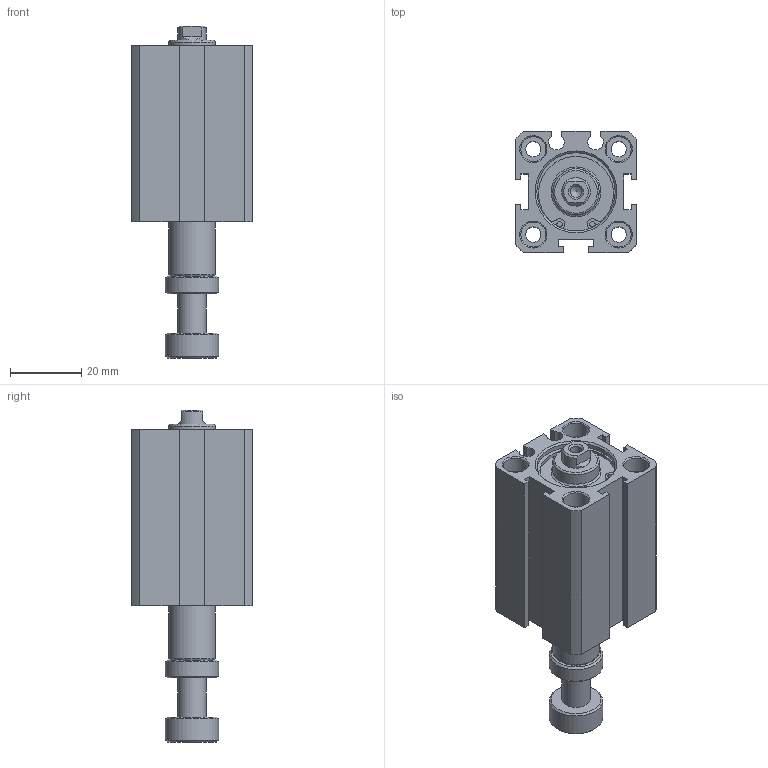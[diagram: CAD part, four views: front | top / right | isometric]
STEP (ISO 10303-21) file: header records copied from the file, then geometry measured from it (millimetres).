
FILE_DESCRIPTION((''),'2;1');
FILE_NAME('I:\3D電子目錄\氣缸\JDAR\JDAR-S\JDAR20-S\JDAR20x20-S.stp','2007-05-05T08:43:28',('662F206'),(''),'Autodesk Inventor 11','Autodesk Inventor 11','');
FILE_SCHEMA(('AUTOMOTIVE_DESIGN { 1 0 10303 214 1 1 1 1 }'));
Length unit declared in the file: millimetre
Products named in the file (3): JDAR20-S; JDAR20; R 形環 23
Assembly tree (3 placements, depth 2):
  JDAR20-S
    JDAR20
    R 形環 23  x2
Bounding box: 34 x 34 x 93.3 mm (x, y, z)
Volume: 50013.2 mm3; surface area: 18088.3 mm2
Topology: 3 solids, 3 shells, 148 faces, 336 edges, 218 vertices
Faces by surface type: plane 70, cylinder 49, cone 19, bspline 8, torus 2
Full cylindrical faces by diameter (mm): 1.5 x6, 4.3 x4, 7 x8, 8 x1, 13 x2, 15 x2, 22 x4, 23.2 x2
Entity records: 3721 total; most frequent: CARTESIAN_POINT 750, DIRECTION 626, ORIENTED_EDGE 494, AXIS2_PLACEMENT_3D 249, EDGE_CURVE 247, EDGE_LOOP 224, VERTEX_POINT 191, FACE_OUTER_BOUND 136
